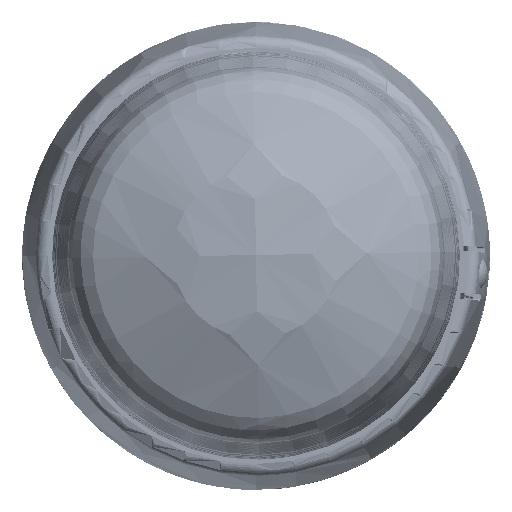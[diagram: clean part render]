
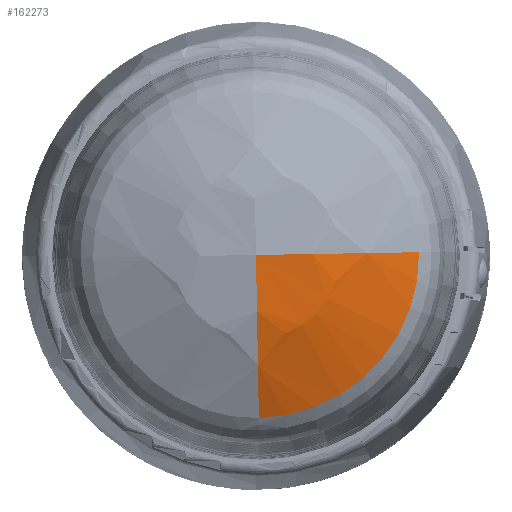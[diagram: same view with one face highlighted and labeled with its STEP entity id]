
A CAD part, top view. The second image highlights one B-rep face of the part: STEP entity #162273.
In plain terms, the highlighted spherical face has radius 120 mm.
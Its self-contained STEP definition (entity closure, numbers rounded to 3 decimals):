
#162185=AXIS2_PLACEMENT_3D('Circle Axis2P3D',#162183,#162184,$) ;
#162242=AXIS2_PLACEMENT_3D('Circle Axis2P3D',#162240,#162241,$) ;
#162261=AXIS2_PLACEMENT_3D('Sphere Axis2P3D',#162258,#162259,#162260) ;
#162265=AXIS2_PLACEMENT_3D('Circle Axis2P3D',#162263,#162264,$) ;
#162180=CARTESIAN_POINT('Vertex',(53.989,0.942,133.385)) ;
#162183=CARTESIAN_POINT('Axis2P3D Location',(0.,0.,133.385)) ;
#162187=CARTESIAN_POINT('Vertex',(0.942,-53.989,133.385)) ;
#162240=CARTESIAN_POINT('Axis2P3D Location',(0.,0.,26.22)) ;
#162244=CARTESIAN_POINT('Vertex',(0.,0.,146.22)) ;
#162258=CARTESIAN_POINT('Axis2P3D Location',(0.,0.,26.22)) ;
#162263=CARTESIAN_POINT('Axis2P3D Location',(0.,0.,26.22)) ;
#162184=DIRECTION('Axis2P3D Direction',(-0.,0.,1.)) ;
#162241=DIRECTION('Axis2P3D Direction',(0.017,-1.,0.)) ;
#162259=DIRECTION('Axis2P3D Direction',(-0.,0.,1.)) ;
#162260=DIRECTION('Axis2P3D XDirection',(0.017,-1.,0.)) ;
#162264=DIRECTION('Axis2P3D Direction',(-1.,-0.017,0.)) ;
#162269=ORIENTED_EDGE('',*,*,#162246,.T.) ;
#162270=ORIENTED_EDGE('',*,*,#162267,.T.) ;
#162271=ORIENTED_EDGE('',*,*,#162189,.F.) ;
#162273=ADVANCED_FACE('434\\MANIFOLD_SOLID_BREP #152935',(#162272),#162262,.T.) ;
#162186=CIRCLE('generated circle',#162185,53.997) ;
#162243=CIRCLE('generated circle',#162242,120.) ;
#162266=CIRCLE('generated circle',#162265,120.) ;
#162189=EDGE_CURVE('',#162181,#162188,#162186,.F.) ;
#162246=EDGE_CURVE('',#162181,#162245,#162243,.T.) ;
#162267=EDGE_CURVE('',#162245,#162188,#162266,.F.) ;
#162268=EDGE_LOOP('',(#162269,#162270,#162271)) ;
#162272=FACE_OUTER_BOUND('',#162268,.T.) ;
#162262=SPHERICAL_SURFACE('',#162261,120.) ;
#162181=VERTEX_POINT('',#162180) ;
#162188=VERTEX_POINT('',#162187) ;
#162245=VERTEX_POINT('',#162244) ;
